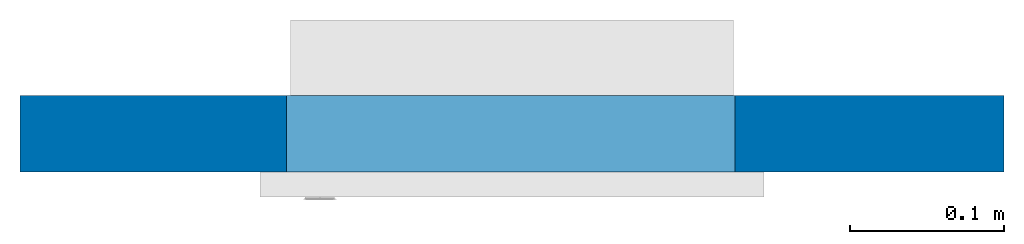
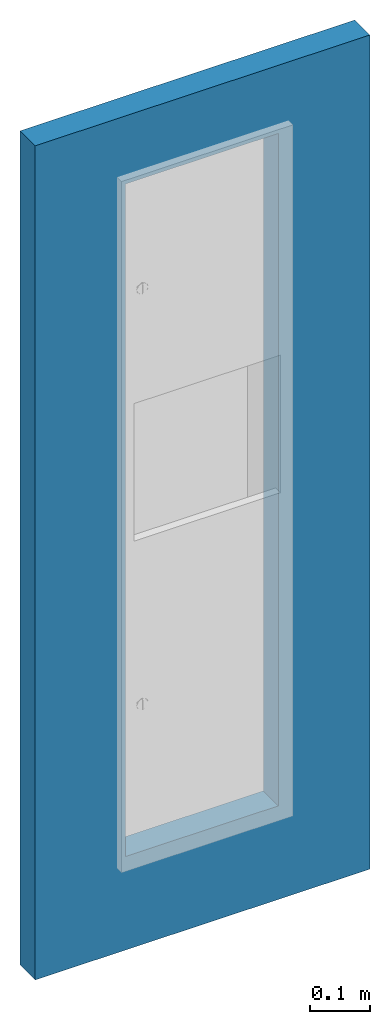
# One storey, incomplete: 1 wall, 1 opening.
"""IFC2X3 building model written with IfcOpenShell, lengths in millimetres."""

from ifc_helpers import new_model, entity, si_unit, converted_unit, derived_unit, direction, frame, frame_2d, origin, origin_2d_with_axis, place, context, subcontext, project, spatial, rectangle, extrude, material, layer, layer_set, layer_usage, type_object, element, save


model = new_model("IFC2X3")

# Units and contexts
model_context = context("Model", 3, precision=1e-05, world=origin(), true_north=direction((2.0, 6.12303176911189e-17, 1.0)))
context_of_model = context(None, 3, precision=1e-05, world=origin(), true_north=direction((2.0, 6.12303176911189e-17, 1.0)))
body_context = subcontext(model_context, "Body", "Model", "MODEL_VIEW")
ifc_project = project(units=[si_unit("LENGTHUNIT", "METRE", prefix="MILLI"), si_unit("AREAUNIT", "SQUARE_METRE"), si_unit("VOLUMEUNIT", "CUBIC_METRE"), converted_unit("PLANEANGLEUNIT", "DEGREE", entity("IfcRatioMeasure", 0.0174532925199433), si_unit("PLANEANGLEUNIT", "RADIAN"), dimensions=[0, 0, 0, 0, 0, 0, 0]), si_unit("MASSUNIT", "GRAM", prefix="KILO"), si_unit("TIMEUNIT", "SECOND"), si_unit("THERMODYNAMICTEMPERATUREUNIT", "KELVIN"), derived_unit("THERMALTRANSMITTANCEUNIT", [(si_unit("MASSUNIT", "GRAM", prefix="KILO"), 1), (si_unit("THERMODYNAMICTEMPERATUREUNIT", "KELVIN"), -1), (si_unit("TIMEUNIT", "SECOND"), -3)]), derived_unit("VOLUMETRICFLOWRATEUNIT", [(si_unit("LENGTHUNIT", "METRE"), 3), (si_unit("TIMEUNIT", "SECOND"), -1)]), si_unit("POWERUNIT", "WATT")], contexts=[model_context, context_of_model])

# Site, building, storey
site_placement = place(None, origin())
site = spatial("IfcSite", under=ifc_project, at=site_placement, Name="Default", CompositionType="ELEMENT")
building_placement = place(site_placement, origin())
building = spatial("IfcBuilding", under=site, at=building_placement, CompositionType="ELEMENT")
storey_placement = place(building_placement, origin())
storey = spatial("IfcBuildingStorey", under=building, at=storey_placement, Name="Level 1", CompositionType="ELEMENT", Elevation=0.0)

# Wall, opening
ifc_material = material(Name="Default Wall")
ifc_layer = layer(ifc_material, 50.0)
ifc_layer_set = layer_set([ifc_layer], Name="Basic Wall:Wall 1")
ifc_layer_usage = layer_usage(ifc_layer_set, "AXIS2", "NEGATIVE", 25.0)
wall_type = type_object("IfcWallType", Name="Basic Wall:Wall 1", PredefinedType="STANDARD", material=ifc_layer_set)
wall_placement = place(storey_placement, frame((-320.747736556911, 3977.69853342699, -171.610635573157)))
wall = element("IfcWallStandardCase", 1, at=wall_placement, inside=storey, type_object=wall_type, material=ifc_layer_usage, Name="Basic Wall:Wall 1:3092", ObjectType="Basic Wall:Wall 1:1494", context=body_context, shape_type="SweptSolid", body=[
    extrude(rectangle(XDim=640.0, YDim=49.9999999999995, at=frame_2d((320.0, 0.0), x_axis=(-1.0, 0.0))), origin(), (0.0, 0.0, 1.0), 1685.8173484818),
])
opening_placement = place(wall_placement, origin())
element("IfcOpeningElement", 2, at=opening_placement, cuts=wall, ObjectType="Opening", context=body_context, shape_type="SweptSolid", body=[
    extrude(rectangle(XDim=1359.12449779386, YDim=291.849968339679, at=origin_2d_with_axis()), frame((319.182189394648, -25.0, 868.589237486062), z_axis=(0.0, 1.0, 0.0), x_axis=(0.0, 0.0, -1.0)), (0.0, 0.0, 1.0), 49.9999999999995),
])

save(model, "model.ifc")
